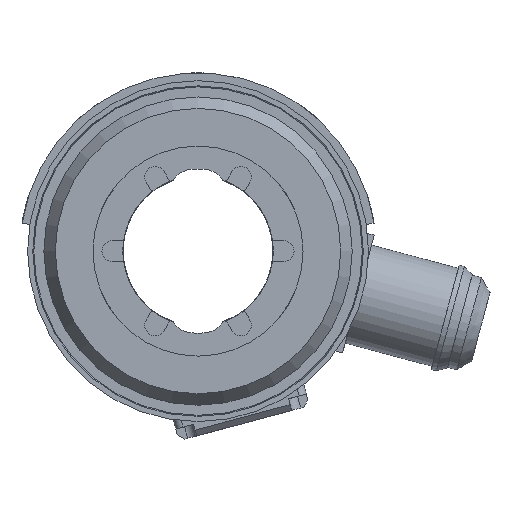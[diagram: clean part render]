
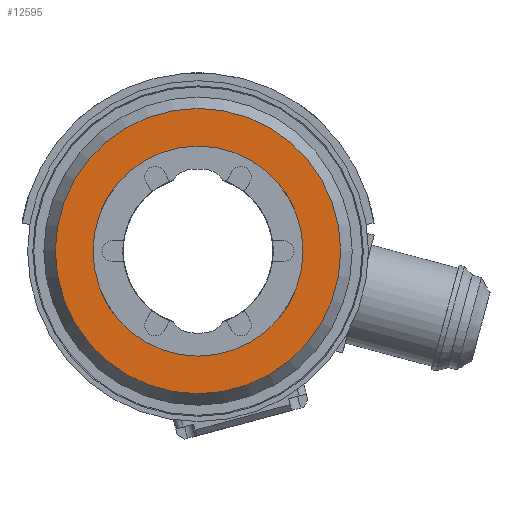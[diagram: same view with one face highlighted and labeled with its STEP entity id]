
A CAD part, front view. The second image highlights one B-rep face of the part: STEP entity #12595.
In plain terms, the highlighted planar face has unit normal (0, -1, 0).
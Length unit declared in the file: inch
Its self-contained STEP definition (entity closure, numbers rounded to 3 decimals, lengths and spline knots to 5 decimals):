
#715 = CARTESIAN_POINT ( 'NONE',  ( -0.87, -0.29559, 0. ) ) ;
#906 = FACE_OUTER_BOUND ( 'NONE', #35871, .T. ) ;
#3241 = AXIS2_PLACEMENT_3D ( 'NONE', #35928, #5811, #24428 ) ;
#3440 = FACE_BOUND ( 'NONE', #16672, .T. ) ;
#5037 = EDGE_CURVE ( 'NONE', #11660, #11660, #26026, .T. ) ;
#5511 = EDGE_CURVE ( 'NONE', #26254, #26254, #34121, .T. ) ;
#5811 = DIRECTION ( 'NONE',  ( 0., 1., 0. ) ) ;
#6535 = PLANE ( 'NONE',  #26976 ) ;
#10523 = ORIENTED_EDGE ( 'NONE', *, *, #5037, .T. ) ;
#11456 = DIRECTION ( 'NONE',  ( 0., 1., 0. ) ) ;
#11660 = VERTEX_POINT ( 'NONE', #15134 ) ;
#12595 = ADVANCED_FACE ( 'NONE', ( #3440, #906 ), #6535, .T. ) ;
#13758 = ORIENTED_EDGE ( 'NONE', *, *, #5511, .F. ) ;
#15134 = CARTESIAN_POINT ( 'NONE',  ( 0., -0.29559, -0.87 ) ) ;
#16672 = EDGE_LOOP ( 'NONE', ( #10523 ) ) ;
#17101 = DIRECTION ( 'NONE',  ( 0., 0., -1. ) ) ;
#17309 = DIRECTION ( 'NONE',  ( 0., 0., 1. ) ) ;
#24428 = DIRECTION ( 'NONE',  ( 0., 0., -1. ) ) ;
#25942 = AXIS2_PLACEMENT_3D ( 'NONE', #30956, #11456, #17101 ) ;
#26026 = CIRCLE ( 'NONE', #25942, 0.87 ) ;
#26254 = VERTEX_POINT ( 'NONE', #34648 ) ;
#26976 = AXIS2_PLACEMENT_3D ( 'NONE', #715, #28062, #17309 ) ;
#28062 = DIRECTION ( 'NONE',  ( 0., -1., 0. ) ) ;
#30956 = CARTESIAN_POINT ( 'NONE',  ( 0., -0.29559, 0. ) ) ;
#34121 = CIRCLE ( 'NONE', #3241, 1.182 ) ;
#34648 = CARTESIAN_POINT ( 'NONE',  ( 0., -0.29559, -1.182 ) ) ;
#35871 = EDGE_LOOP ( 'NONE', ( #13758 ) ) ;
#35928 = CARTESIAN_POINT ( 'NONE',  ( 0., -0.29559, 0. ) ) ;
